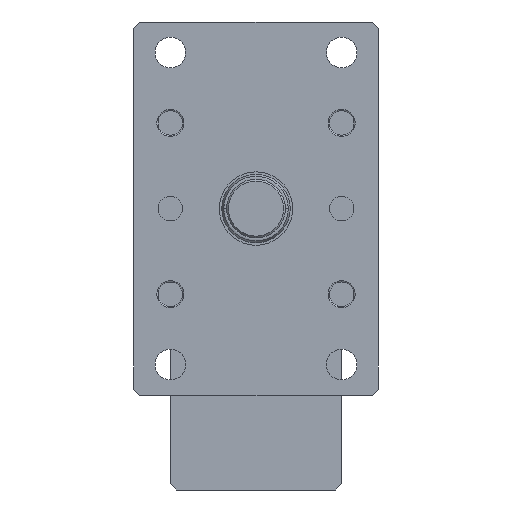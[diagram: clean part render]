
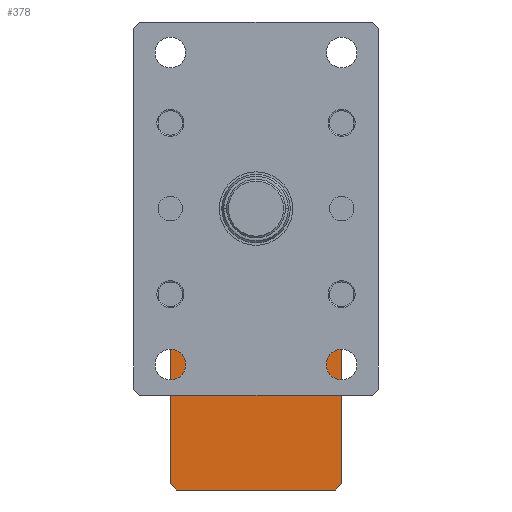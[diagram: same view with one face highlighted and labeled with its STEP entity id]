
A CAD part, left-side view. The second image highlights one B-rep face of the part: STEP entity #378.
In plain terms, the highlighted planar face has unit normal (-1, 0, 0).
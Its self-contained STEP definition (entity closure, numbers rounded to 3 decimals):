
#157 = ORIENTED_EDGE ( 'NONE', *, *, #1549, .T. ) ;
#161 = EDGE_CURVE ( 'NONE', #6332, #1345, #8229, .T. ) ;
#375 = DIRECTION ( 'NONE',  ( 0., 1., 0. ) ) ;
#378 = ADVANCED_FACE ( 'NONE', ( #1204 ), #8265, .F. ) ;
#419 = CARTESIAN_POINT ( 'NONE',  ( 327.5, 70., -230. ) ) ;
#484 = EDGE_CURVE ( 'NONE', #5015, #3798, #5836, .T. ) ;
#655 = EDGE_CURVE ( 'NONE', #6332, #8824, #873, .T. ) ;
#668 = CARTESIAN_POINT ( 'NONE',  ( 327.5, -70., -225. ) ) ;
#843 = ORIENTED_EDGE ( 'NONE', *, *, #923, .T. ) ;
#873 = LINE ( 'NONE', #419, #4101 ) ;
#923 = EDGE_CURVE ( 'NONE', #3659, #5015, #5391, .T. ) ;
#966 = CARTESIAN_POINT ( 'NONE',  ( 327.5, 65., -230. ) ) ;
#972 = ORIENTED_EDGE ( 'NONE', *, *, #5089, .T. ) ;
#1143 = CARTESIAN_POINT ( 'NONE',  ( 327.5, -70., -95. ) ) ;
#1204 = FACE_OUTER_BOUND ( 'NONE', #8194, .T. ) ;
#1345 = VERTEX_POINT ( 'NONE', #668 ) ;
#1392 = CARTESIAN_POINT ( 'NONE',  ( 327.5, 70., -230. ) ) ;
#1417 = DIRECTION ( 'NONE',  ( 0., -0.707, 0.707 ) ) ;
#1549 = EDGE_CURVE ( 'NONE', #7113, #8824, #4832, .T. ) ;
#1567 = CARTESIAN_POINT ( 'NONE',  ( 327.5, -65., -90. ) ) ;
#1815 = ORIENTED_EDGE ( 'NONE', *, *, #161, .T. ) ;
#2052 = LINE ( 'NONE', #4098, #7123 ) ;
#2120 = CARTESIAN_POINT ( 'NONE',  ( 327.5, 70., -225. ) ) ;
#2207 = CARTESIAN_POINT ( 'NONE',  ( 327.5, 70., -95. ) ) ;
#2382 = DIRECTION ( 'NONE',  ( 0., 0.707, 0.707 ) ) ;
#2531 = CARTESIAN_POINT ( 'NONE',  ( 327.5, 65., -230. ) ) ;
#2931 = VERTEX_POINT ( 'NONE', #2207 ) ;
#2994 = VECTOR ( 'NONE', #3008, 1000. ) ;
#3008 = DIRECTION ( 'NONE',  ( 0., -0.707, -0.707 ) ) ;
#3014 = DIRECTION ( 'NONE',  ( 0., 1., 0. ) ) ;
#3659 = VERTEX_POINT ( 'NONE', #1143 ) ;
#3798 = VERTEX_POINT ( 'NONE', #7326 ) ;
#3807 = CARTESIAN_POINT ( 'NONE',  ( 327.5, 70., -90. ) ) ;
#3914 = CARTESIAN_POINT ( 'NONE',  ( 327.5, 70., -230. ) ) ;
#4098 = CARTESIAN_POINT ( 'NONE',  ( 327.5, 70., -95. ) ) ;
#4101 = VECTOR ( 'NONE', #4535, 1000. ) ;
#4292 = VECTOR ( 'NONE', #7869, 1000. ) ;
#4515 = AXIS2_PLACEMENT_3D ( 'NONE', #1392, #7158, #3014 ) ;
#4535 = DIRECTION ( 'NONE',  ( 0., 1., 0. ) ) ;
#4790 = EDGE_CURVE ( 'NONE', #7113, #2931, #4834, .T. ) ;
#4832 = LINE ( 'NONE', #966, #2994 ) ;
#4834 = LINE ( 'NONE', #3914, #8296 ) ;
#5015 = VERTEX_POINT ( 'NONE', #1567 ) ;
#5089 = EDGE_CURVE ( 'NONE', #1345, #3659, #8192, .T. ) ;
#5391 = LINE ( 'NONE', #7910, #8843 ) ;
#5528 = CARTESIAN_POINT ( 'NONE',  ( 327.5, -65., -230. ) ) ;
#5568 = CARTESIAN_POINT ( 'NONE',  ( 327.5, -65., -230. ) ) ;
#5836 = LINE ( 'NONE', #3807, #7251 ) ;
#5982 = ORIENTED_EDGE ( 'NONE', *, *, #484, .T. ) ;
#6248 = ORIENTED_EDGE ( 'NONE', *, *, #4790, .F. ) ;
#6332 = VERTEX_POINT ( 'NONE', #5528 ) ;
#6568 = ORIENTED_EDGE ( 'NONE', *, *, #8046, .T. ) ;
#7113 = VERTEX_POINT ( 'NONE', #2120 ) ;
#7123 = VECTOR ( 'NONE', #7520, 1000. ) ;
#7158 = DIRECTION ( 'NONE',  ( 1., 0., 0. ) ) ;
#7163 = CARTESIAN_POINT ( 'NONE',  ( 327.5, -70., -230. ) ) ;
#7251 = VECTOR ( 'NONE', #375, 1000. ) ;
#7326 = CARTESIAN_POINT ( 'NONE',  ( 327.5, 65., -90. ) ) ;
#7382 = DIRECTION ( 'NONE',  ( 0., 0., 1. ) ) ;
#7520 = DIRECTION ( 'NONE',  ( 0., 0.707, -0.707 ) ) ;
#7869 = DIRECTION ( 'NONE',  ( 0., 0., 1. ) ) ;
#7910 = CARTESIAN_POINT ( 'NONE',  ( 327.5, -70., -95. ) ) ;
#8022 = VECTOR ( 'NONE', #1417, 1000. ) ;
#8033 = ORIENTED_EDGE ( 'NONE', *, *, #655, .F. ) ;
#8046 = EDGE_CURVE ( 'NONE', #3798, #2931, #2052, .T. ) ;
#8192 = LINE ( 'NONE', #7163, #4292 ) ;
#8194 = EDGE_LOOP ( 'NONE', ( #972, #843, #5982, #6568, #6248, #157, #8033, #1815 ) ) ;
#8229 = LINE ( 'NONE', #5568, #8022 ) ;
#8265 = PLANE ( 'NONE',  #4515 ) ;
#8296 = VECTOR ( 'NONE', #7382, 1000. ) ;
#8824 = VERTEX_POINT ( 'NONE', #2531 ) ;
#8843 = VECTOR ( 'NONE', #2382, 1000. ) ;
